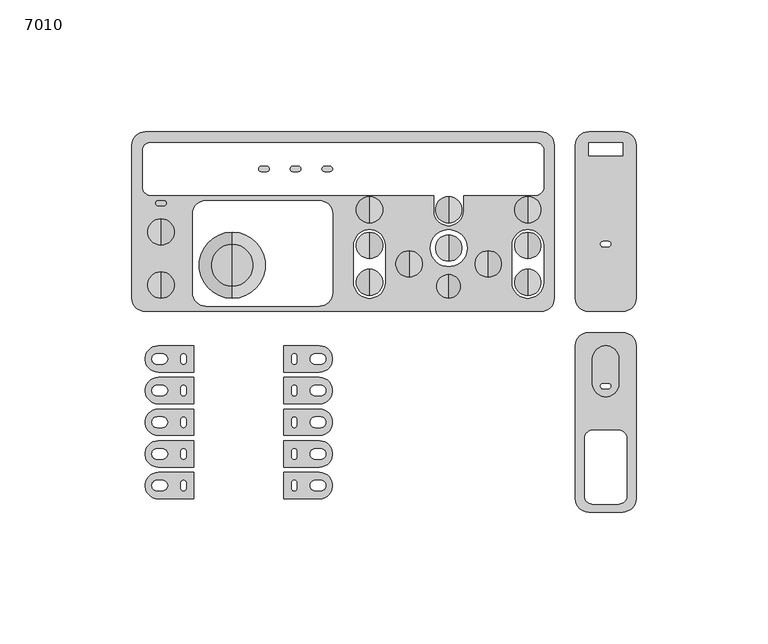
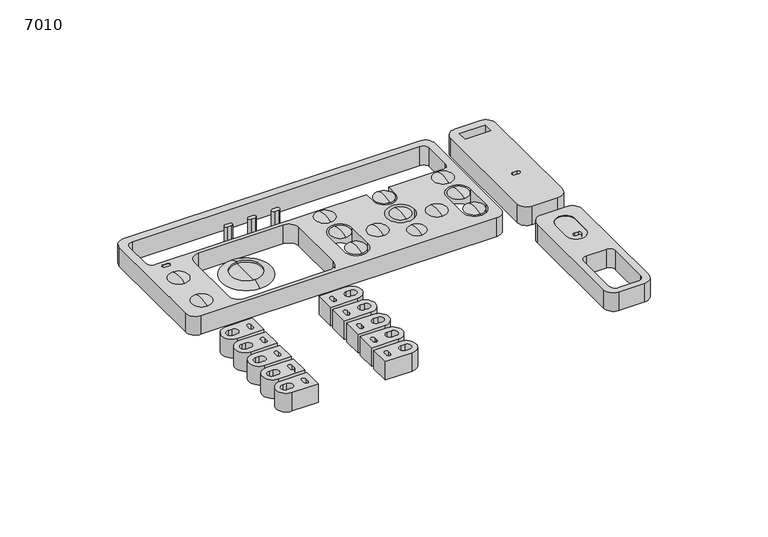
"""IFC4 building model written with IfcOpenShell, lengths in millimetres: switching device geometry, Панель управления SonarSRM : 7010."""

from ifc_helpers import new_model, si_unit, point, frame, frame_2d, origin, origin_with_axes, place, context, project, spatial, polyline, circle_curve, ellipse_curve, trimmed, segment, composite_curve, outline, extrude, source, transform, mapped, element, save
from ifc_brep_helpers import plane_surface, revolved_surface, advanced_brep


def switching_device_7010_a75dffa3(model_context):
    return source(origin(), model_context, "Body", "SolidModel", [
        advanced_brep(
        [(-84.5, 34.1156351, 11.0), (-84.5, 39.1156351, 10.0), (-84.5, 29.1156351, 10.0), (-84.5, 34.1156351, 10.0)],
        [
            (0, 1, circle_curve(frame((-84.5, 34.1156351, -2.0), z_axis=(-1.0, 0.0, 0.0), x_axis=(0.0, 1.0, 0.0)), 13.0)),
            (1, 2, circle_curve(frame((-84.5, 34.1156351, 10.0), z_axis=(0.0, 0.0, 1.0), x_axis=(0.0, 1.0, 0.0)), 5.0)),
            (2, 0, circle_curve(frame((-84.5, 34.1156351, -2.0), z_axis=(-1.0, 0.0, 0.0), x_axis=(0.0, -1.0, 0.0)), 13.0)),
            (2, 1, circle_curve(frame((-84.5, 34.1156351, 10.0), z_axis=(0.0, 0.0, 1.0), x_axis=(0.0, 1.0, 0.0)), 5.0)),
            (1, 3),
            (3, 2),
        ],
        [
            revolved_surface(trimmed(ellipse_curve(frame((-84.5, 34.1156351, -2.0), z_axis=(1.0, 0.0, 0.0), x_axis=(0.0, 1.0, 0.0)), 13.0, 13.0), [point((-84.5, 39.1156351, 10.0))], [point((-84.5, 34.1156351, 11.0))], True, "CARTESIAN"), (-84.5, 34.1156351, 10.5), (0.0, 0.0, 1.0)),
            plane_surface(frame((-84.5, 34.1156351, 10.0), z_axis=(0.0, 0.0, -1.0), x_axis=(0.0, 1.0, 0.0))),
        ],
        [
            (0, [[1, 2, 3]]),
            (0, [[-3, 4, -1]]),
            (1, [[-2, 5, 6]]),
            (1, [[-4, -6, -5]]),
        ],
    ),
        advanced_brep(
        [(-84.5, 14.0, 11.0), (-84.5, 19.0, 10.0), (-84.5, 9.0, 10.0), (-84.5, 14.0, 10.0)],
        [
            (0, 1, circle_curve(frame((-84.5, 14.0, -2.0), z_axis=(-1.0, 0.0, 0.0), x_axis=(0.0, 1.0, 0.0)), 13.0)),
            (1, 2, circle_curve(frame((-84.5, 14.0, 10.0), z_axis=(0.0, 0.0, 1.0), x_axis=(0.0, 1.0, 0.0)), 5.0)),
            (2, 0, circle_curve(frame((-84.5, 14.0, -2.0), z_axis=(-1.0, 0.0, 0.0), x_axis=(0.0, -1.0, 0.0)), 13.0)),
            (2, 1, circle_curve(frame((-84.5, 14.0, 10.0), z_axis=(0.0, 0.0, 1.0), x_axis=(0.0, 1.0, 0.0)), 5.0)),
            (1, 3),
            (3, 2),
        ],
        [
            revolved_surface(trimmed(ellipse_curve(frame((-84.5, 14.0, -2.0), z_axis=(1.0, 0.0, 0.0), x_axis=(0.0, 1.0, 0.0)), 13.0, 13.0), [point((-84.5, 19.0, 10.0))], [point((-84.5, 14.0, 11.0))], True, "CARTESIAN"), (-84.5, 14.0, 10.5), (0.0, 0.0, 1.0)),
            plane_surface(frame((-84.5, 14.0, 10.0), z_axis=(0.0, 0.0, -1.0), x_axis=(0.0, 1.0, 0.0))),
        ],
        [
            (0, [[1, 2, 3]]),
            (0, [[-3, 4, -1]]),
            (1, [[-2, 5, 6]]),
            (1, [[-4, -6, -5]]),
        ],
    ),
        advanced_brep(
        [(24.5, 18.0, 10.0), (24.5, 9.0, 10.0), (24.5, 13.5, 10.0), (24.5, 13.5, 11.0)],
        [
            (0, 1, circle_curve(frame((24.5, 13.5, 10.0), z_axis=(0.0, 0.0, -1.0), x_axis=(0.0, -1.0, 0.0)), 4.5)),
            (1, 2),
            (2, 0),
            (1, 0, circle_curve(frame((24.5, 13.5, 10.0), z_axis=(0.0, 0.0, -1.0), x_axis=(0.0, -1.0, 0.0)), 4.5)),
            (3, 1, circle_curve(frame((24.5, 13.5, 0.375), z_axis=(1.0, 0.0, 0.0), x_axis=(0.0, -1.0, 0.0)), 10.625)),
            (0, 3, circle_curve(frame((24.5, 13.5, 0.375), z_axis=(1.0, 0.0, 0.0), x_axis=(0.0, 1.0, 0.0)), 10.625)),
        ],
        [
            plane_surface(frame((24.5, 13.5, 10.0), z_axis=(0.0, 0.0, -1.0), x_axis=(0.0, -1.0, 0.0))),
            revolved_surface(trimmed(ellipse_curve(frame((24.5, 13.5, 0.375), z_axis=(-1.0, 0.0, 0.0), x_axis=(0.0, -1.0, 0.0)), 10.625, 10.625), [point((24.5, 9.0, 10.0))], [point((24.5, 13.5, 11.0))], True, "CARTESIAN"), (24.5, 13.5, 10.1443303), (0.0, 0.0, 1.0)),
        ],
        [
            (0, [[1, 2, 3]]),
            (0, [[4, -3, -2]]),
            (1, [[5, -1, 6]]),
            (1, [[-6, -4, -5]]),
        ],
    ),
        advanced_brep(
        [(39.5, 22.0, 11.0), (39.5, 17.0, 10.0), (39.5, 27.0, 10.0), (39.5, 22.0, 10.0)],
        [
            (0, 1, circle_curve(frame((39.5, 22.0, -2.0), z_axis=(1.0, 0.0, 0.0), x_axis=(0.0, -1.0, 0.0)), 13.0)),
            (1, 2, circle_curve(frame((39.5, 22.0, 10.0), z_axis=(0.0, 0.0, 1.0), x_axis=(0.0, -1.0, 0.0)), 5.0)),
            (2, 0, circle_curve(frame((39.5, 22.0, -2.0), z_axis=(1.0, 0.0, 0.0), x_axis=(0.0, 1.0, 0.0)), 13.0)),
            (2, 1, circle_curve(frame((39.5, 22.0, 10.0), z_axis=(0.0, 0.0, 1.0), x_axis=(0.0, -1.0, 0.0)), 5.0)),
            (1, 3),
            (3, 2),
        ],
        [
            revolved_surface(trimmed(ellipse_curve(frame((39.5, 22.0, -2.0), z_axis=(-1.0, 0.0, 0.0), x_axis=(0.0, -1.0, 0.0)), 13.0, 13.0), [point((39.5, 17.0, 10.0))], [point((39.5, 22.0, 11.0))], True, "CARTESIAN"), (39.5, 22.0, 10.5), (0.0, 0.0, 1.0)),
            plane_surface(frame((39.5, 22.0, 10.0), z_axis=(0.0, 0.0, -1.0), x_axis=(0.0, -1.0, 0.0))),
        ],
        [
            (0, [[1, 2, 3]]),
            (0, [[-3, 4, -1]]),
            (1, [[-2, 5, 6]]),
            (1, [[-4, -6, -5]]),
        ],
    ),
        advanced_brep(
        [(9.5, 27.0, 10.0), (9.5, 17.0, 10.0), (9.5, 22.0, 11.0), (9.5, 22.0, 10.0)],
        [
            (0, 1, circle_curve(frame((9.5, 22.0, 10.0), z_axis=(0.0, 0.0, 1.0), x_axis=(0.0, -1.0, 0.0)), 5.0)),
            (1, 2, circle_curve(frame((9.5, 22.0, -2.0), z_axis=(-1.0, 0.0, 0.0), x_axis=(0.0, -1.0, 0.0)), 13.0)),
            (2, 0, circle_curve(frame((9.5, 22.0, -2.0), z_axis=(-1.0, 0.0, 0.0), x_axis=(0.0, 1.0, 0.0)), 13.0)),
            (1, 0, circle_curve(frame((9.5, 22.0, 10.0), z_axis=(0.0, 0.0, 1.0), x_axis=(0.0, -1.0, 0.0)), 5.0)),
            (3, 1),
            (0, 3),
        ],
        [
            revolved_surface(trimmed(ellipse_curve(frame((9.5, 22.0, -2.0), z_axis=(1.0, 0.0, 0.0), x_axis=(0.0, -1.0, 0.0)), 13.0, 13.0), [point((9.5, 22.0, 11.0))], [point((9.5, 17.0, 10.0))], True, "CARTESIAN"), (9.5, 22.0, 10.5), (0.0, 0.0, -1.0)),
            plane_surface(frame((9.5, 22.0, 10.0), z_axis=(0.0, 0.0, -1.0), x_axis=(0.0, -1.0, 0.0))),
        ],
        [
            (0, [[1, 2, 3]]),
            (0, [[4, -3, -2]]),
            (1, [[5, -1, 6]]),
            (1, [[-6, -4, -5]]),
        ],
    ),
        advanced_brep(
        [(54.5, 47.5, 10.0), (54.5, 37.5, 10.0), (54.5, 42.5, 11.0), (54.5, 42.5, 10.0)],
        [
            (0, 1, circle_curve(frame((54.5, 42.5, 10.0), z_axis=(0.0, 0.0, 1.0), x_axis=(0.0, -1.0, 0.0)), 5.0)),
            (1, 2, circle_curve(frame((54.5, 42.5, -2.0), z_axis=(-1.0, 0.0, 0.0), x_axis=(0.0, -1.0, 0.0)), 13.0)),
            (2, 0, circle_curve(frame((54.5, 42.5, -2.0), z_axis=(-1.0, 0.0, 0.0), x_axis=(0.0, 1.0, 0.0)), 13.0)),
            (1, 0, circle_curve(frame((54.5, 42.5, 10.0), z_axis=(0.0, 0.0, 1.0), x_axis=(0.0, -1.0, 0.0)), 5.0)),
            (3, 1),
            (0, 3),
        ],
        [
            revolved_surface(trimmed(ellipse_curve(frame((54.5, 42.5, -2.0), z_axis=(1.0, 0.0, 0.0), x_axis=(0.0, -1.0, 0.0)), 13.0, 13.0), [point((54.5, 42.5, 11.0))], [point((54.5, 37.5, 10.0))], True, "CARTESIAN"), (54.5, 42.5, 10.5), (0.0, 0.0, -1.0)),
            plane_surface(frame((54.5, 42.5, 10.0), z_axis=(0.0, 0.0, -1.0), x_axis=(0.0, -1.0, 0.0))),
        ],
        [
            (0, [[1, 2, 3]]),
            (0, [[4, -3, -2]]),
            (1, [[5, -1, 6]]),
            (1, [[-6, -4, -5]]),
        ],
    ),
        advanced_brep(
        [(-5.5, 47.5, 10.0), (-5.5, 37.5, 10.0), (-5.5, 42.5, 11.0), (-5.5, 42.5, 10.0)],
        [
            (0, 1, circle_curve(frame((-5.5, 42.5, 10.0), z_axis=(0.0, 0.0, 1.0), x_axis=(0.0, -1.0, 0.0)), 5.0)),
            (1, 2, circle_curve(frame((-5.5, 42.5, -2.0), z_axis=(-1.0, 0.0, 0.0), x_axis=(0.0, -1.0, 0.0)), 13.0)),
            (2, 0, circle_curve(frame((-5.5, 42.5, -2.0), z_axis=(-1.0, 0.0, 0.0), x_axis=(0.0, 1.0, 0.0)), 13.0)),
            (1, 0, circle_curve(frame((-5.5, 42.5, 10.0), z_axis=(0.0, 0.0, 1.0), x_axis=(0.0, -1.0, 0.0)), 5.0)),
            (3, 1),
            (0, 3),
        ],
        [
            revolved_surface(trimmed(ellipse_curve(frame((-5.5, 42.5, -2.0), z_axis=(1.0, 0.0, 0.0), x_axis=(0.0, -1.0, 0.0)), 13.0, 13.0), [point((-5.5, 42.5, 11.0))], [point((-5.5, 37.5, 10.0))], True, "CARTESIAN"), (-5.5, 42.5, 10.5), (0.0, 0.0, -1.0)),
            plane_surface(frame((-5.5, 42.5, 10.0), z_axis=(0.0, 0.0, -1.0), x_axis=(0.0, -1.0, 0.0))),
        ],
        [
            (0, [[1, 2, 3]]),
            (0, [[4, -3, -2]]),
            (1, [[5, -1, 6]]),
            (1, [[-6, -4, -5]]),
        ],
    ),
        advanced_brep(
        [(24.5, 47.5, 10.0), (24.5, 37.5, 10.0), (24.5, 42.5, 11.0), (24.5, 42.5, 10.0)],
        [
            (0, 1, circle_curve(frame((24.5, 42.5, 10.0), z_axis=(0.0, 0.0, 1.0), x_axis=(0.0, -1.0, 0.0)), 5.0)),
            (1, 2, circle_curve(frame((24.5, 42.5, -2.0), z_axis=(-1.0, 0.0, 0.0), x_axis=(0.0, -1.0, 0.0)), 13.0)),
            (2, 0, circle_curve(frame((24.5, 42.5, -2.0), z_axis=(-1.0, 0.0, 0.0), x_axis=(0.0, 1.0, 0.0)), 13.0)),
            (1, 0, circle_curve(frame((24.5, 42.5, 10.0), z_axis=(0.0, 0.0, 1.0), x_axis=(0.0, -1.0, 0.0)), 5.0)),
            (3, 1),
            (0, 3),
        ],
        [
            revolved_surface(trimmed(ellipse_curve(frame((24.5, 42.5, -2.0), z_axis=(1.0, 0.0, 0.0), x_axis=(0.0, -1.0, 0.0)), 13.0, 13.0), [point((24.5, 42.5, 11.0))], [point((24.5, 37.5, 10.0))], True, "CARTESIAN"), (24.5, 42.5, 10.5), (0.0, 0.0, -1.0)),
            plane_surface(frame((24.5, 42.5, 10.0), z_axis=(0.0, 0.0, -1.0), x_axis=(0.0, -1.0, 0.0))),
        ],
        [
            (0, [[1, 2, 3]]),
            (0, [[4, -3, -2]]),
            (1, [[5, -1, 6]]),
            (1, [[-6, -4, -5]]),
        ],
    ),
        advanced_brep(
        [(24.5, 28.0, 11.0), (24.5, 33.0, 10.0), (24.5, 23.0, 10.0), (24.5, 28.0, 10.0)],
        [
            (0, 1, circle_curve(frame((24.5, 28.0, -2.0), z_axis=(-1.0, 0.0, 0.0), x_axis=(0.0, 1.0, 0.0)), 13.0)),
            (1, 2, circle_curve(frame((24.5, 28.0, 10.0), z_axis=(0.0, 0.0, 1.0), x_axis=(0.0, 1.0, 0.0)), 5.0)),
            (2, 0, circle_curve(frame((24.5, 28.0, -2.0), z_axis=(-1.0, 0.0, 0.0), x_axis=(0.0, -1.0, 0.0)), 13.0)),
            (2, 1, circle_curve(frame((24.5, 28.0, 10.0), z_axis=(0.0, 0.0, 1.0), x_axis=(0.0, 1.0, 0.0)), 5.0)),
            (1, 3),
            (3, 2),
        ],
        [
            revolved_surface(trimmed(ellipse_curve(frame((24.5, 28.0, -2.0), z_axis=(1.0, 0.0, 0.0), x_axis=(0.0, 1.0, 0.0)), 13.0, 13.0), [point((24.5, 33.0, 10.0))], [point((24.5, 28.0, 11.0))], True, "CARTESIAN"), (24.5, 28.0, 10.5), (0.0, 0.0, 1.0)),
            plane_surface(frame((24.5, 28.0, 10.0), z_axis=(0.0, 0.0, -1.0), x_axis=(0.0, 1.0, 0.0))),
        ],
        [
            (0, [[1, 2, 3]]),
            (0, [[-3, 4, -1]]),
            (1, [[-2, 5, 6]]),
            (1, [[-4, -6, -5]]),
        ],
    ),
        advanced_brep(
        [(-5.5, 29.0, 11.0), (-5.5, 34.0, 10.0), (-5.5, 24.0, 10.0), (-5.5, 29.0, 10.0)],
        [
            (0, 1, circle_curve(frame((-5.5, 29.0, -2.0), z_axis=(-1.0, 0.0, 0.0), x_axis=(0.0, 1.0, 0.0)), 13.0)),
            (1, 2, circle_curve(frame((-5.5, 29.0, 10.0), z_axis=(0.0, 0.0, 1.0), x_axis=(0.0, 1.0, 0.0)), 5.0)),
            (2, 0, circle_curve(frame((-5.5, 29.0, -2.0), z_axis=(-1.0, 0.0, 0.0), x_axis=(0.0, -1.0, 0.0)), 13.0)),
            (2, 1, circle_curve(frame((-5.5, 29.0, 10.0), z_axis=(0.0, 0.0, 1.0), x_axis=(0.0, 1.0, 0.0)), 5.0)),
            (1, 3),
            (3, 2),
        ],
        [
            revolved_surface(trimmed(ellipse_curve(frame((-5.5, 29.0, -2.0), z_axis=(1.0, 0.0, 0.0), x_axis=(0.0, 1.0, 0.0)), 13.0, 13.0), [point((-5.5, 34.0, 10.0))], [point((-5.5, 29.0, 11.0))], True, "CARTESIAN"), (-5.5, 29.0, 10.5), (0.0, 0.0, 1.0)),
            plane_surface(frame((-5.5, 29.0, 10.0), z_axis=(0.0, 0.0, -1.0), x_axis=(0.0, 1.0, 0.0))),
        ],
        [
            (0, [[1, 2, 3]]),
            (0, [[-3, 4, -1]]),
            (1, [[-2, 5, 6]]),
            (1, [[-4, -6, -5]]),
        ],
    ),
        advanced_brep(
        [(-5.5, 20.0, 10.0), (-5.5, 10.0, 10.0), (-5.5, 15.0, 11.0), (-5.5, 15.0, 10.0)],
        [
            (0, 1, circle_curve(frame((-5.5, 15.0, 10.0), z_axis=(0.0, 0.0, 1.0), x_axis=(0.0, -1.0, 0.0)), 5.0)),
            (1, 2, circle_curve(frame((-5.5, 15.0, -2.0), z_axis=(-1.0, 0.0, 0.0), x_axis=(0.0, -1.0, 0.0)), 13.0)),
            (2, 0, circle_curve(frame((-5.5, 15.0, -2.0), z_axis=(-1.0, 0.0, 0.0), x_axis=(0.0, 1.0, 0.0)), 13.0)),
            (1, 0, circle_curve(frame((-5.5, 15.0, 10.0), z_axis=(0.0, 0.0, 1.0), x_axis=(0.0, -1.0, 0.0)), 5.0)),
            (3, 1),
            (0, 3),
        ],
        [
            revolved_surface(trimmed(ellipse_curve(frame((-5.5, 15.0, -2.0), z_axis=(1.0, 0.0, 0.0), x_axis=(0.0, -1.0, 0.0)), 13.0, 13.0), [point((-5.5, 15.0, 11.0))], [point((-5.5, 10.0, 10.0))], True, "CARTESIAN"), (-5.5, 15.0, 10.5), (0.0, 0.0, -1.0)),
            plane_surface(frame((-5.5, 15.0, 10.0), z_axis=(0.0, 0.0, -1.0), x_axis=(0.0, -1.0, 0.0))),
        ],
        [
            (0, [[1, 2, 3]]),
            (0, [[4, -3, -2]]),
            (1, [[5, -1, 6]]),
            (1, [[-6, -4, -5]]),
        ],
    ),
        advanced_brep(
        [(54.5, 29.0, 11.0), (54.5, 34.0, 10.0), (54.5, 24.0, 10.0), (54.5, 29.0, 10.0)],
        [
            (0, 1, circle_curve(frame((54.5, 29.0, -2.0), z_axis=(-1.0, 0.0, 0.0), x_axis=(0.0, 1.0, 0.0)), 13.0)),
            (1, 2, circle_curve(frame((54.5, 29.0, 10.0), z_axis=(0.0, 0.0, 1.0), x_axis=(0.0, 1.0, 0.0)), 5.0)),
            (2, 0, circle_curve(frame((54.5, 29.0, -2.0), z_axis=(-1.0, 0.0, 0.0), x_axis=(0.0, -1.0, 0.0)), 13.0)),
            (2, 1, circle_curve(frame((54.5, 29.0, 10.0), z_axis=(0.0, 0.0, 1.0), x_axis=(0.0, 1.0, 0.0)), 5.0)),
            (1, 3),
            (3, 2),
        ],
        [
            revolved_surface(trimmed(ellipse_curve(frame((54.5, 29.0, -2.0), z_axis=(1.0, 0.0, 0.0), x_axis=(0.0, 1.0, 0.0)), 13.0, 13.0), [point((54.5, 34.0, 10.0))], [point((54.5, 29.0, 11.0))], True, "CARTESIAN"), (54.5, 29.0, 10.5), (0.0, 0.0, 1.0)),
            plane_surface(frame((54.5, 29.0, 10.0), z_axis=(0.0, 0.0, -1.0), x_axis=(0.0, 1.0, 0.0))),
        ],
        [
            (0, [[1, 2, 3]]),
            (0, [[-3, 4, -1]]),
            (1, [[-2, 5, 6]]),
            (1, [[-4, -6, -5]]),
        ],
    ),
        advanced_brep(
        [(54.5, 20.0, 10.0), (54.5, 10.0, 10.0), (54.5, 15.0, 11.0), (54.5, 15.0, 10.0)],
        [
            (0, 1, circle_curve(frame((54.5, 15.0, 10.0), z_axis=(0.0, 0.0, 1.0), x_axis=(0.0, -1.0, 0.0)), 5.0)),
            (1, 2, circle_curve(frame((54.5, 15.0, -2.0), z_axis=(-1.0, 0.0, 0.0), x_axis=(0.0, -1.0, 0.0)), 13.0)),
            (2, 0, circle_curve(frame((54.5, 15.0, -2.0), z_axis=(-1.0, 0.0, 0.0), x_axis=(0.0, 1.0, 0.0)), 13.0)),
            (1, 0, circle_curve(frame((54.5, 15.0, 10.0), z_axis=(0.0, 0.0, 1.0), x_axis=(0.0, -1.0, 0.0)), 5.0)),
            (3, 1),
            (0, 3),
        ],
        [
            revolved_surface(trimmed(ellipse_curve(frame((54.5, 15.0, -2.0), z_axis=(1.0, 0.0, 0.0), x_axis=(0.0, -1.0, 0.0)), 13.0, 13.0), [point((54.5, 15.0, 11.0))], [point((54.5, 10.0, 10.0))], True, "CARTESIAN"), (54.5, 15.0, 10.5), (0.0, 0.0, -1.0)),
            plane_surface(frame((54.5, 15.0, 10.0), z_axis=(0.0, 0.0, -1.0), x_axis=(0.0, -1.0, 0.0))),
        ],
        [
            (0, [[1, 2, 3]]),
            (0, [[4, -3, -2]]),
            (1, [[5, -1, 6]]),
            (1, [[-6, -4, -5]]),
        ],
    ),
        advanced_brep(
        [(-57.5, 21.5, 10.0), (-57.5, 34.0, 10.0), (-57.5, 9.0, 10.0), (-57.5, 29.5, 12.0), (-57.5, 13.5, 12.0), (-57.5, 29.5, 11.0), (-57.5, 13.5, 11.0), (-57.5, 21.5, 11.0)],
        [
            (0, 1),
            (1, 2, circle_curve(frame((-57.5, 21.5, 10.0), z_axis=(0.0, 0.0, -1.0), x_axis=(0.0, 1.0, 0.0)), 12.5)),
            (2, 0),
            (2, 1, circle_curve(frame((-57.5, 21.5, 10.0), z_axis=(0.0, 0.0, -1.0), x_axis=(0.0, 1.0, 0.0)), 12.5)),
            (1, 3),
            (3, 4, circle_curve(frame((-57.5, 21.5, 12.0), z_axis=(0.0, 0.0, -1.0), x_axis=(0.0, 1.0, 0.0)), 8.0)),
            (4, 2),
            (4, 3, circle_curve(frame((-57.5, 21.5, 12.0), z_axis=(0.0, 0.0, -1.0), x_axis=(0.0, 1.0, 0.0)), 8.0)),
            (3, 5),
            (5, 6, circle_curve(frame((-57.5, 21.5, 11.0), z_axis=(0.0, 0.0, -1.0), x_axis=(0.0, 1.0, 0.0)), 8.0)),
            (6, 4),
            (6, 5, circle_curve(frame((-57.5, 21.5, 11.0), z_axis=(0.0, 0.0, -1.0), x_axis=(0.0, 1.0, 0.0)), 8.0)),
            (5, 7),
            (7, 6),
        ],
        [
            plane_surface(frame((-57.5, 21.5, 10.0), z_axis=(0.0, 0.0, -1.0), x_axis=(0.0, 1.0, 0.0))),
            revolved_surface(polyline([(-57.5, 29.5, 12.0), (-57.5, 34.0, 10.0)]), (-57.5, 21.5, 10.0), (0.0, 0.0, -1.0)),
            revolved_surface(polyline([(-57.5, 29.5, 11.0), (-57.5, 29.5, 12.0)]), (-57.5, 21.5, 10.0), (0.0, 0.0, -1.0)),
            plane_surface(frame((-57.5, 21.5, 11.0), z_axis=(0.0, 0.0, 1.0), x_axis=(0.0, 1.0, 0.0))),
        ],
        [
            (0, [[1, 2, 3]]),
            (0, [[-3, 4, -1]]),
            (1, [[-2, 5, 6, 7]]),
            (1, [[-4, -7, 8, -5]]),
            (2, [[-6, 9, 10, 11]]),
            (2, [[-8, -11, 12, -9]]),
            (3, [[-10, 13, 14]]),
            (3, [[-12, -14, -13]]),
        ],
    ),
        extrude(outline(composite_curve([segment(polyline([(64.5, 67.0), (64.5, 9.0)]), True, "CONTINUOUS"), segment(trimmed(circle_curve(frame_2d((59.5, 9.0)), 5.0), [point((64.5, 9.0))], [point((59.5, 4.0))], False, "CARTESIAN"), True, "CONTINUOUS"), segment(polyline([(59.5, 4.0), (-90.5, 4.0)]), True, "CONTINUOUS"), segment(trimmed(circle_curve(frame_2d((-90.5, 9.0)), 5.0), [point((-90.5, 4.0))], [point((-95.5, 9.0))], False, "CARTESIAN"), True, "CONTINUOUS"), segment(polyline([(-95.5, 9.0), (-95.5, 67.0)]), True, "CONTINUOUS"), segment(trimmed(circle_curve(frame_2d((-90.5, 67.0)), 5.0), [point((-95.5, 67.0))], [point((-90.5, 72.0))], False, "CARTESIAN"), True, "CONTINUOUS"), segment(polyline([(-90.5, 72.0), (59.5, 72.0)]), True, "CONTINUOUS"), segment(trimmed(circle_curve(frame_2d((59.5, 67.0)), 5.0), [point((59.5, 72.0))], [point((64.5, 67.0))], False, "CARTESIAN"), True, "CONTINUOUS")], self_intersect=False), holes=[composite_curve([segment(trimmed(circle_curve(frame_2d((-88.5, 65.0)), 3.0), [point((-88.5, 68.0))], [point((-91.5, 65.0))], True, "CARTESIAN"), True, "CONTINUOUS"), segment(polyline([(-91.5, 65.0), (-91.5, 51.0)]), True, "CONTINUOUS"), segment(trimmed(circle_curve(frame_2d((-88.5, 51.0)), 3.0), [point((-91.5, 51.0))], [point((-88.5, 48.0))], True, "CARTESIAN"), True, "CONTINUOUS"), segment(polyline([(-88.5, 48.0), (19.0, 48.0), (19.0, 42.0)]), True, "CONTINUOUS"), segment(trimmed(circle_curve(frame_2d((24.5, 42.0)), 5.5), [point((19.0, 42.0))], [point((30.0, 42.0))], True, "CARTESIAN"), True, "CONTINUOUS"), segment(polyline([(30.0, 42.0), (30.0, 48.0), (57.5, 48.0)]), True, "CONTINUOUS"), segment(trimmed(circle_curve(frame_2d((57.5, 51.0)), 3.0), [point((57.5, 48.0))], [point((60.5, 51.0))], True, "CARTESIAN"), True, "CONTINUOUS"), segment(polyline([(60.5, 51.0), (60.5, 65.0)]), True, "CONTINUOUS"), segment(trimmed(circle_curve(frame_2d((57.5, 65.0)), 3.0), [point((60.5, 65.0))], [point((57.5, 68.0))], True, "CARTESIAN"), True, "CONTINUOUS"), segment(polyline([(57.5, 68.0), (-88.5, 68.0)]), True, "CONTINUOUS")], self_intersect=False), composite_curve([segment(polyline([(-72.5, 41.0), (-72.5, 11.0)]), True, "CONTINUOUS"), segment(trimmed(circle_curve(frame_2d((-67.5, 11.0)), 5.0), [point((-72.5, 11.0))], [point((-67.5, 6.0))], True, "CARTESIAN"), True, "CONTINUOUS"), segment(polyline([(-67.5, 6.0), (-24.5, 6.0)]), True, "CONTINUOUS"), segment(trimmed(circle_curve(frame_2d((-24.5, 11.0)), 5.0), [point((-24.5, 6.0))], [point((-19.5, 11.0))], True, "CARTESIAN"), True, "CONTINUOUS"), segment(polyline([(-19.5, 11.0), (-19.5, 41.0)]), True, "CONTINUOUS"), segment(trimmed(circle_curve(frame_2d((-24.5, 41.0)), 5.0), [point((-19.5, 41.0))], [point((-24.5, 46.0))], True, "CARTESIAN"), True, "CONTINUOUS"), segment(polyline([(-24.5, 46.0), (-67.5, 46.0)]), True, "CONTINUOUS"), segment(trimmed(circle_curve(frame_2d((-67.5, 41.0)), 5.0), [point((-67.5, 46.0))], [point((-72.5, 41.0))], True, "CARTESIAN"), True, "CONTINUOUS")], self_intersect=False), composite_curve([segment(trimmed(circle_curve(frame_2d((-5.5, 29.0)), 6.0), [point((0.5, 29.0))], [point((-11.5, 29.0))], True, "CARTESIAN"), True, "CONTINUOUS"), segment(polyline([(-11.5, 29.0), (-11.5, 15.0)]), True, "CONTINUOUS"), segment(trimmed(circle_curve(frame_2d((-5.5, 15.0)), 6.0), [point((-11.5, 15.0))], [point((0.5, 15.0))], True, "CARTESIAN"), True, "CONTINUOUS"), segment(polyline([(0.5, 15.0), (0.5, 29.0)]), True, "CONTINUOUS")], self_intersect=False), composite_curve([segment(trimmed(circle_curve(frame_2d((54.5, 29.0)), 6.0), [point((60.5, 29.0))], [point((48.5, 29.0))], True, "CARTESIAN"), True, "CONTINUOUS"), segment(polyline([(48.5, 29.0), (48.5, 15.0)]), True, "CONTINUOUS"), segment(trimmed(circle_curve(frame_2d((54.5, 15.0)), 6.0), [point((48.5, 15.0))], [point((60.5, 15.0))], True, "CARTESIAN"), True, "CONTINUOUS"), segment(polyline([(60.5, 15.0), (60.5, 29.0)]), True, "CONTINUOUS")], self_intersect=False), composite_curve([segment(trimmed(circle_curve(frame_2d((24.5, 28.0)), 7.0), [point((31.5, 28.0))], [point((17.5, 28.0))], True, "CARTESIAN"), True, "CONTINUOUS"), segment(trimmed(circle_curve(frame_2d((24.5, 28.0)), 7.0), [point((17.5, 28.0))], [point((31.5, 28.0))], True, "CARTESIAN"), True, "CONTINUOUS")], self_intersect=False), composite_curve([segment(trimmed(circle_curve(frame_2d((-85.5, 45.0)), 1.0), [point((-85.5, 46.0))], [point((-85.5, 44.0))], True, "CARTESIAN"), True, "CONTINUOUS"), segment(polyline([(-85.5, 44.0), (-83.5, 44.0)]), True, "CONTINUOUS"), segment(trimmed(circle_curve(frame_2d((-83.5, 45.0)), 1.0), [point((-83.5, 44.0))], [point((-83.5, 46.0))], True, "CARTESIAN"), True, "CONTINUOUS"), segment(polyline([(-83.5, 46.0), (-85.5, 46.0)]), True, "CONTINUOUS")], self_intersect=False)]), origin_with_axes(), (0.0, 0.0, 1.0), 10.0),
        extrude(outline(composite_curve([segment(polyline([(72.5, 9.0), (72.5, 67.0)]), True, "CONTINUOUS"), segment(trimmed(circle_curve(frame_2d((77.5, 67.0)), 5.0), [point((72.5, 67.0))], [point((77.5, 72.0))], False, "CARTESIAN"), True, "CONTINUOUS"), segment(polyline([(77.5, 72.0), (90.5, 72.0)]), True, "CONTINUOUS"), segment(trimmed(circle_curve(frame_2d((90.5, 67.0)), 5.0), [point((90.5, 72.0))], [point((95.5, 67.0))], False, "CARTESIAN"), True, "CONTINUOUS"), segment(polyline([(95.5, 67.0), (95.5, 9.0)]), True, "CONTINUOUS"), segment(trimmed(circle_curve(frame_2d((90.5, 9.0)), 5.0), [point((95.5, 9.0))], [point((90.5, 4.0))], False, "CARTESIAN"), True, "CONTINUOUS"), segment(polyline([(90.5, 4.0), (77.5, 4.0)]), True, "CONTINUOUS"), segment(trimmed(circle_curve(frame_2d((77.5, 9.0)), 5.0), [point((77.5, 4.0))], [point((72.5, 9.0))], False, "CARTESIAN"), True, "CONTINUOUS")], self_intersect=False), holes=[polyline([(90.5, 68.0), (77.5, 68.0), (77.5, 63.0), (90.5, 63.0), (90.5, 68.0)]), composite_curve([segment(trimmed(circle_curve(frame_2d((83.0, 29.5)), 1.0), [point((83.0, 30.5))], [point((83.0, 28.5))], True, "CARTESIAN"), True, "CONTINUOUS"), segment(polyline([(83.0, 28.5), (85.0, 28.5)]), True, "CONTINUOUS"), segment(trimmed(circle_curve(frame_2d((85.0, 29.5)), 1.0), [point((85.0, 28.5))], [point((85.0, 30.5))], True, "CARTESIAN"), True, "CONTINUOUS"), segment(polyline([(85.0, 30.5), (83.0, 30.5)]), True, "CONTINUOUS")], self_intersect=False)]), origin_with_axes(), (0.0, 0.0, 1.0), 10.0),
        extrude(outline(composite_curve([segment(polyline([(77.5, -4.0), (90.5, -4.0)]), True, "CONTINUOUS"), segment(trimmed(circle_curve(frame_2d((90.5, -9.0)), 5.0), [point((90.5, -4.0))], [point((95.5, -9.0))], False, "CARTESIAN"), True, "CONTINUOUS"), segment(polyline([(95.5, -9.0), (95.5, -67.0)]), True, "CONTINUOUS"), segment(trimmed(circle_curve(frame_2d((90.5, -67.0)), 5.0), [point((95.5, -67.0))], [point((90.5, -72.0))], False, "CARTESIAN"), True, "CONTINUOUS"), segment(polyline([(90.5, -72.0), (77.5, -72.0)]), True, "CONTINUOUS"), segment(trimmed(circle_curve(frame_2d((77.5, -67.0)), 5.0), [point((77.5, -72.0))], [point((72.5, -67.0))], False, "CARTESIAN"), True, "CONTINUOUS"), segment(polyline([(72.5, -67.0), (72.5, -9.0)]), True, "CONTINUOUS"), segment(trimmed(circle_curve(frame_2d((77.5, -9.0)), 5.0), [point((72.5, -9.0))], [point((77.5, -4.0))], False, "CARTESIAN"), True, "CONTINUOUS")], self_intersect=False), holes=[composite_curve([segment(trimmed(circle_curve(frame_2d((79.0, -66.0)), 3.0), [point((76.0, -66.0))], [point((79.0, -69.0))], True, "CARTESIAN"), True, "CONTINUOUS"), segment(polyline([(79.0, -69.0), (89.0, -69.0)]), True, "CONTINUOUS"), segment(trimmed(circle_curve(frame_2d((89.0, -66.0)), 3.0), [point((89.0, -69.0))], [point((92.0, -66.0))], True, "CARTESIAN"), True, "CONTINUOUS"), segment(polyline([(92.0, -66.0), (92.0, -44.0)]), True, "CONTINUOUS"), segment(trimmed(circle_curve(frame_2d((89.0, -44.0)), 3.0), [point((92.0, -44.0))], [point((89.0, -41.0))], True, "CARTESIAN"), True, "CONTINUOUS"), segment(polyline([(89.0, -41.0), (79.0, -41.0)]), True, "CONTINUOUS"), segment(trimmed(circle_curve(frame_2d((79.0, -44.0)), 3.0), [point((79.0, -41.0))], [point((76.0, -44.0))], True, "CARTESIAN"), True, "CONTINUOUS"), segment(polyline([(76.0, -44.0), (76.0, -66.0)]), True, "CONTINUOUS")], self_intersect=False), composite_curve([segment(polyline([(79.0, -14.0), (79.0, -23.3230034)]), True, "CONTINUOUS"), segment(trimmed(circle_curve(frame_2d((84.0, -23.3230034)), 5.0), [point((79.0, -23.3230034))], [point((89.0, -23.3230034))], True, "CARTESIAN"), True, "CONTINUOUS"), segment(polyline([(89.0, -23.3230034), (89.0, -14.0)]), True, "CONTINUOUS"), segment(trimmed(circle_curve(frame_2d((84.0, -14.0)), 5.0), [point((89.0, -14.0))], [point((79.0, -14.0))], True, "CARTESIAN"), True, "CONTINUOUS")], self_intersect=False)]), origin_with_axes(), (0.0, 0.0, 1.0), 10.0),
        extrude(outline(composite_curve([segment(polyline([(-46.5, 59.0), (-44.5, 59.0)]), True, "CONTINUOUS"), segment(trimmed(circle_curve(frame_2d((-44.5, 58.0)), 1.0), [point((-44.5, 59.0))], [point((-44.5, 57.0))], False, "CARTESIAN"), True, "CONTINUOUS"), segment(polyline([(-44.5, 57.0), (-46.5, 57.0)]), True, "CONTINUOUS"), segment(trimmed(circle_curve(frame_2d((-46.5, 58.0)), 1.0), [point((-46.5, 57.0))], [point((-46.5, 59.0))], False, "CARTESIAN"), True, "CONTINUOUS")], self_intersect=False)), origin_with_axes(), (0.0, 0.0, 1.0), 10.0),
        extrude(outline(composite_curve([segment(polyline([(-34.5, 59.0), (-32.5, 59.0)]), True, "CONTINUOUS"), segment(trimmed(circle_curve(frame_2d((-32.5, 58.0)), 1.0), [point((-32.5, 59.0))], [point((-32.5, 57.0))], False, "CARTESIAN"), True, "CONTINUOUS"), segment(polyline([(-32.5, 57.0), (-34.5, 57.0)]), True, "CONTINUOUS"), segment(trimmed(circle_curve(frame_2d((-34.5, 58.0)), 1.0), [point((-34.5, 57.0))], [point((-34.5, 59.0))], False, "CARTESIAN"), True, "CONTINUOUS")], self_intersect=False)), origin_with_axes(), (0.0, 0.0, 1.0), 10.0),
        extrude(outline(composite_curve([segment(polyline([(-22.5, 59.0), (-20.5, 59.0)]), True, "CONTINUOUS"), segment(trimmed(circle_curve(frame_2d((-20.5, 58.0)), 1.0), [point((-20.5, 59.0))], [point((-20.5, 57.0))], False, "CARTESIAN"), True, "CONTINUOUS"), segment(polyline([(-20.5, 57.0), (-22.5, 57.0)]), True, "CONTINUOUS"), segment(trimmed(circle_curve(frame_2d((-22.5, 58.0)), 1.0), [point((-22.5, 57.0))], [point((-22.5, 59.0))], False, "CARTESIAN"), True, "CONTINUOUS")], self_intersect=False)), origin_with_axes(), (0.0, 0.0, 1.0), 10.0),
        extrude(outline(composite_curve([segment(polyline([(-85.5, 46.0), (-83.5, 46.0)]), True, "CONTINUOUS"), segment(trimmed(circle_curve(frame_2d((-83.5, 45.0)), 1.0), [point((-83.5, 46.0))], [point((-83.5, 44.0))], False, "CARTESIAN"), True, "CONTINUOUS"), segment(polyline([(-83.5, 44.0), (-85.5, 44.0)]), True, "CONTINUOUS"), segment(trimmed(circle_curve(frame_2d((-85.5, 45.0)), 1.0), [point((-85.5, 44.0))], [point((-85.5, 46.0))], False, "CARTESIAN"), True, "CONTINUOUS")], self_intersect=False)), origin_with_axes(), (0.0, 0.0, 1.0), 10.0),
        extrude(outline(composite_curve([segment(polyline([(89.0, -14.0), (89.0, -23.3230034)]), True, "CONTINUOUS"), segment(trimmed(circle_curve(frame_2d((84.0, -23.3230034)), 5.0), [point((89.0, -23.3230034))], [point((79.0, -23.3230034))], False, "CARTESIAN"), True, "CONTINUOUS"), segment(polyline([(79.0, -23.3230034), (79.0, -14.0)]), True, "CONTINUOUS"), segment(trimmed(circle_curve(frame_2d((84.0, -14.0)), 5.0), [point((79.0, -14.0))], [point((89.0, -14.0))], False, "CARTESIAN"), True, "CONTINUOUS")], self_intersect=False), holes=[composite_curve([segment(trimmed(circle_curve(frame_2d((85.0, -24.3230034)), 1.0), [point((85.0, -25.3230034))], [point((85.0, -23.3230034))], True, "CARTESIAN"), True, "CONTINUOUS"), segment(polyline([(85.0, -23.3230034), (83.0, -23.3230034)]), True, "CONTINUOUS"), segment(trimmed(circle_curve(frame_2d((83.0, -24.3230034)), 1.0), [point((83.0, -23.3230034))], [point((83.0, -25.3230034))], True, "CARTESIAN"), True, "CONTINUOUS"), segment(polyline([(83.0, -25.3230034), (85.0, -25.3230034)]), True, "CONTINUOUS")], self_intersect=False)]), origin_with_axes(), (0.0, 0.0, 1.0), 10.0),
        extrude(outline(composite_curve([segment(polyline([(-72.0, -19.0), (-85.5, -19.0)]), True, "CONTINUOUS"), segment(trimmed(circle_curve(frame_2d((-85.5, -14.0)), 5.0), [point((-85.5, -19.0))], [point((-85.5, -9.0))], False, "CARTESIAN"), True, "CONTINUOUS"), segment(polyline([(-85.5, -9.0), (-72.0, -9.0), (-72.0, -19.0)]), True, "CONTINUOUS")], self_intersect=False), holes=[composite_curve([segment(trimmed(circle_curve(frame_2d((-76.0, -15.0)), 1.0), [point((-77.0, -15.0))], [point((-75.0, -15.0))], True, "CARTESIAN"), True, "CONTINUOUS"), segment(polyline([(-75.0, -15.0), (-75.0, -13.0)]), True, "CONTINUOUS"), segment(trimmed(circle_curve(frame_2d((-76.0, -13.0)), 1.0), [point((-75.0, -13.0))], [point((-77.0, -13.0))], True, "CARTESIAN"), True, "CONTINUOUS"), segment(polyline([(-77.0, -13.0), (-77.0, -15.0)]), True, "CONTINUOUS")], self_intersect=False), composite_curve([segment(polyline([(-84.0, -12.0), (-86.0, -12.0)]), True, "CONTINUOUS"), segment(trimmed(circle_curve(frame_2d((-86.0, -14.0)), 2.0), [point((-86.0, -12.0))], [point((-86.0, -16.0))], True, "CARTESIAN"), True, "CONTINUOUS"), segment(polyline([(-86.0, -16.0), (-84.0, -16.0)]), True, "CONTINUOUS"), segment(trimmed(circle_curve(frame_2d((-84.0, -14.0)), 2.0), [point((-84.0, -16.0))], [point((-84.0, -12.0))], True, "CARTESIAN"), True, "CONTINUOUS")], self_intersect=False)]), origin_with_axes(), (0.0, 0.0, 1.0), 10.0),
        extrude(outline(composite_curve([segment(polyline([(-72.0, -31.0), (-85.5, -31.0)]), True, "CONTINUOUS"), segment(trimmed(circle_curve(frame_2d((-85.5, -26.0)), 5.0), [point((-85.5, -31.0))], [point((-85.5, -21.0))], False, "CARTESIAN"), True, "CONTINUOUS"), segment(polyline([(-85.5, -21.0), (-72.0, -21.0), (-72.0, -31.0)]), True, "CONTINUOUS")], self_intersect=False), holes=[composite_curve([segment(trimmed(circle_curve(frame_2d((-76.0, -27.0)), 1.0), [point((-77.0, -27.0))], [point((-75.0, -27.0))], True, "CARTESIAN"), True, "CONTINUOUS"), segment(polyline([(-75.0, -27.0), (-75.0, -25.0)]), True, "CONTINUOUS"), segment(trimmed(circle_curve(frame_2d((-76.0, -25.0)), 1.0), [point((-75.0, -25.0))], [point((-77.0, -25.0))], True, "CARTESIAN"), True, "CONTINUOUS"), segment(polyline([(-77.0, -25.0), (-77.0, -27.0)]), True, "CONTINUOUS")], self_intersect=False), composite_curve([segment(polyline([(-84.0, -24.0), (-86.0, -24.0)]), True, "CONTINUOUS"), segment(trimmed(circle_curve(frame_2d((-86.0, -26.0)), 2.0), [point((-86.0, -24.0))], [point((-86.0, -28.0))], True, "CARTESIAN"), True, "CONTINUOUS"), segment(polyline([(-86.0, -28.0), (-84.0, -28.0)]), True, "CONTINUOUS"), segment(trimmed(circle_curve(frame_2d((-84.0, -26.0)), 2.0), [point((-84.0, -28.0))], [point((-84.0, -24.0))], True, "CARTESIAN"), True, "CONTINUOUS")], self_intersect=False)]), origin_with_axes(), (0.0, 0.0, 1.0), 10.0),
        extrude(outline(composite_curve([segment(polyline([(-72.0, -43.0), (-85.5, -43.0)]), True, "CONTINUOUS"), segment(trimmed(circle_curve(frame_2d((-85.5, -38.0)), 5.0), [point((-85.5, -43.0))], [point((-85.5, -33.0))], False, "CARTESIAN"), True, "CONTINUOUS"), segment(polyline([(-85.5, -33.0), (-72.0, -33.0), (-72.0, -43.0)]), True, "CONTINUOUS")], self_intersect=False), holes=[composite_curve([segment(trimmed(circle_curve(frame_2d((-76.0, -39.0)), 1.0), [point((-77.0, -39.0))], [point((-75.0, -39.0))], True, "CARTESIAN"), True, "CONTINUOUS"), segment(polyline([(-75.0, -39.0), (-75.0, -37.0)]), True, "CONTINUOUS"), segment(trimmed(circle_curve(frame_2d((-76.0, -37.0)), 1.0), [point((-75.0, -37.0))], [point((-77.0, -37.0))], True, "CARTESIAN"), True, "CONTINUOUS"), segment(polyline([(-77.0, -37.0), (-77.0, -39.0)]), True, "CONTINUOUS")], self_intersect=False), composite_curve([segment(polyline([(-84.0, -36.0), (-86.0, -36.0)]), True, "CONTINUOUS"), segment(trimmed(circle_curve(frame_2d((-86.0, -38.0)), 2.0), [point((-86.0, -36.0))], [point((-86.0, -40.0))], True, "CARTESIAN"), True, "CONTINUOUS"), segment(polyline([(-86.0, -40.0), (-84.0, -40.0)]), True, "CONTINUOUS"), segment(trimmed(circle_curve(frame_2d((-84.0, -38.0)), 2.0), [point((-84.0, -40.0))], [point((-84.0, -36.0))], True, "CARTESIAN"), True, "CONTINUOUS")], self_intersect=False)]), origin_with_axes(), (0.0, 0.0, 1.0), 10.0),
        extrude(outline(composite_curve([segment(polyline([(-72.0, -55.0), (-85.5, -55.0)]), True, "CONTINUOUS"), segment(trimmed(circle_curve(frame_2d((-85.5, -50.0)), 5.0), [point((-85.5, -55.0))], [point((-85.5, -45.0))], False, "CARTESIAN"), True, "CONTINUOUS"), segment(polyline([(-85.5, -45.0), (-72.0, -45.0), (-72.0, -55.0)]), True, "CONTINUOUS")], self_intersect=False), holes=[composite_curve([segment(trimmed(circle_curve(frame_2d((-76.0, -51.0)), 1.0), [point((-77.0, -51.0))], [point((-75.0, -51.0))], True, "CARTESIAN"), True, "CONTINUOUS"), segment(polyline([(-75.0, -51.0), (-75.0, -49.0)]), True, "CONTINUOUS"), segment(trimmed(circle_curve(frame_2d((-76.0, -49.0)), 1.0), [point((-75.0, -49.0))], [point((-77.0, -49.0))], True, "CARTESIAN"), True, "CONTINUOUS"), segment(polyline([(-77.0, -49.0), (-77.0, -51.0)]), True, "CONTINUOUS")], self_intersect=False), composite_curve([segment(polyline([(-84.0, -48.0), (-86.0, -48.0)]), True, "CONTINUOUS"), segment(trimmed(circle_curve(frame_2d((-86.0, -50.0)), 2.0), [point((-86.0, -48.0))], [point((-86.0, -52.0))], True, "CARTESIAN"), True, "CONTINUOUS"), segment(polyline([(-86.0, -52.0), (-84.0, -52.0)]), True, "CONTINUOUS"), segment(trimmed(circle_curve(frame_2d((-84.0, -50.0)), 2.0), [point((-84.0, -52.0))], [point((-84.0, -48.0))], True, "CARTESIAN"), True, "CONTINUOUS")], self_intersect=False)]), origin_with_axes(), (0.0, 0.0, 1.0), 10.0),
        extrude(outline(composite_curve([segment(polyline([(-72.0, -67.0), (-85.5, -67.0)]), True, "CONTINUOUS"), segment(trimmed(circle_curve(frame_2d((-85.5, -62.0)), 5.0), [point((-85.5, -67.0))], [point((-85.5, -57.0))], False, "CARTESIAN"), True, "CONTINUOUS"), segment(polyline([(-85.5, -57.0), (-72.0, -57.0), (-72.0, -67.0)]), True, "CONTINUOUS")], self_intersect=False), holes=[composite_curve([segment(trimmed(circle_curve(frame_2d((-76.0, -63.0)), 1.0), [point((-77.0, -63.0))], [point((-75.0, -63.0))], True, "CARTESIAN"), True, "CONTINUOUS"), segment(polyline([(-75.0, -63.0), (-75.0, -61.0)]), True, "CONTINUOUS"), segment(trimmed(circle_curve(frame_2d((-76.0, -61.0)), 1.0), [point((-75.0, -61.0))], [point((-77.0, -61.0))], True, "CARTESIAN"), True, "CONTINUOUS"), segment(polyline([(-77.0, -61.0), (-77.0, -63.0)]), True, "CONTINUOUS")], self_intersect=False), composite_curve([segment(polyline([(-84.0, -60.0), (-86.0, -60.0)]), True, "CONTINUOUS"), segment(trimmed(circle_curve(frame_2d((-86.0, -62.0)), 2.0), [point((-86.0, -60.0))], [point((-86.0, -64.0))], True, "CARTESIAN"), True, "CONTINUOUS"), segment(polyline([(-86.0, -64.0), (-84.0, -64.0)]), True, "CONTINUOUS"), segment(trimmed(circle_curve(frame_2d((-84.0, -62.0)), 2.0), [point((-84.0, -64.0))], [point((-84.0, -60.0))], True, "CARTESIAN"), True, "CONTINUOUS")], self_intersect=False)]), origin_with_axes(), (0.0, 0.0, 1.0), 10.0),
        extrude(outline(composite_curve([segment(polyline([(-38.0, -19.0), (-38.0, -9.0), (-24.5, -9.0)]), True, "CONTINUOUS"), segment(trimmed(circle_curve(frame_2d((-24.5, -14.0)), 5.0), [point((-24.5, -9.0))], [point((-24.5, -19.0))], False, "CARTESIAN"), True, "CONTINUOUS"), segment(polyline([(-24.5, -19.0), (-38.0, -19.0)]), True, "CONTINUOUS")], self_intersect=False), holes=[composite_curve([segment(polyline([(-33.0, -15.0), (-33.0, -13.0)]), True, "CONTINUOUS"), segment(trimmed(circle_curve(frame_2d((-34.0, -13.0)), 1.0), [point((-33.0, -13.0))], [point((-35.0, -13.0))], True, "CARTESIAN"), True, "CONTINUOUS"), segment(polyline([(-35.0, -13.0), (-35.0, -15.0)]), True, "CONTINUOUS"), segment(trimmed(circle_curve(frame_2d((-34.0, -15.0)), 1.0), [point((-35.0, -15.0))], [point((-33.0, -15.0))], True, "CARTESIAN"), True, "CONTINUOUS")], self_intersect=False), composite_curve([segment(trimmed(circle_curve(frame_2d((-26.0, -14.0)), 2.0), [point((-26.0, -12.0))], [point((-26.0, -16.0))], True, "CARTESIAN"), True, "CONTINUOUS"), segment(polyline([(-26.0, -16.0), (-24.0, -16.0)]), True, "CONTINUOUS"), segment(trimmed(circle_curve(frame_2d((-24.0, -14.0)), 2.0), [point((-24.0, -16.0))], [point((-24.0, -12.0))], True, "CARTESIAN"), True, "CONTINUOUS"), segment(polyline([(-24.0, -12.0), (-26.0, -12.0)]), True, "CONTINUOUS")], self_intersect=False)]), origin_with_axes(), (0.0, 0.0, 1.0), 10.0),
        extrude(outline(composite_curve([segment(polyline([(-38.0, -31.0), (-38.0, -21.0), (-24.5, -21.0)]), True, "CONTINUOUS"), segment(trimmed(circle_curve(frame_2d((-24.5, -26.0)), 5.0), [point((-24.5, -21.0))], [point((-24.5, -31.0))], False, "CARTESIAN"), True, "CONTINUOUS"), segment(polyline([(-24.5, -31.0), (-38.0, -31.0)]), True, "CONTINUOUS")], self_intersect=False), holes=[composite_curve([segment(polyline([(-33.0, -27.0), (-33.0, -25.0)]), True, "CONTINUOUS"), segment(trimmed(circle_curve(frame_2d((-34.0, -25.0)), 1.0), [point((-33.0, -25.0))], [point((-35.0, -25.0))], True, "CARTESIAN"), True, "CONTINUOUS"), segment(polyline([(-35.0, -25.0), (-35.0, -27.0)]), True, "CONTINUOUS"), segment(trimmed(circle_curve(frame_2d((-34.0, -27.0)), 1.0), [point((-35.0, -27.0))], [point((-33.0, -27.0))], True, "CARTESIAN"), True, "CONTINUOUS")], self_intersect=False), composite_curve([segment(trimmed(circle_curve(frame_2d((-26.0, -26.0)), 2.0), [point((-26.0, -24.0))], [point((-26.0, -28.0))], True, "CARTESIAN"), True, "CONTINUOUS"), segment(polyline([(-26.0, -28.0), (-24.0, -28.0)]), True, "CONTINUOUS"), segment(trimmed(circle_curve(frame_2d((-24.0, -26.0)), 2.0), [point((-24.0, -28.0))], [point((-24.0, -24.0))], True, "CARTESIAN"), True, "CONTINUOUS"), segment(polyline([(-24.0, -24.0), (-26.0, -24.0)]), True, "CONTINUOUS")], self_intersect=False)]), origin_with_axes(), (0.0, 0.0, 1.0), 10.0),
        extrude(outline(composite_curve([segment(polyline([(-38.0, -43.0), (-38.0, -33.0), (-24.5, -33.0)]), True, "CONTINUOUS"), segment(trimmed(circle_curve(frame_2d((-24.5, -38.0)), 5.0), [point((-24.5, -33.0))], [point((-24.5, -43.0))], False, "CARTESIAN"), True, "CONTINUOUS"), segment(polyline([(-24.5, -43.0), (-38.0, -43.0)]), True, "CONTINUOUS")], self_intersect=False), holes=[composite_curve([segment(polyline([(-33.0, -39.0), (-33.0, -37.0)]), True, "CONTINUOUS"), segment(trimmed(circle_curve(frame_2d((-34.0, -37.0)), 1.0), [point((-33.0, -37.0))], [point((-35.0, -37.0))], True, "CARTESIAN"), True, "CONTINUOUS"), segment(polyline([(-35.0, -37.0), (-35.0, -39.0)]), True, "CONTINUOUS"), segment(trimmed(circle_curve(frame_2d((-34.0, -39.0)), 1.0), [point((-35.0, -39.0))], [point((-33.0, -39.0))], True, "CARTESIAN"), True, "CONTINUOUS")], self_intersect=False), composite_curve([segment(trimmed(circle_curve(frame_2d((-26.0, -38.0)), 2.0), [point((-26.0, -36.0))], [point((-26.0, -40.0))], True, "CARTESIAN"), True, "CONTINUOUS"), segment(polyline([(-26.0, -40.0), (-24.0, -40.0)]), True, "CONTINUOUS"), segment(trimmed(circle_curve(frame_2d((-24.0, -38.0)), 2.0), [point((-24.0, -40.0))], [point((-24.0, -36.0))], True, "CARTESIAN"), True, "CONTINUOUS"), segment(polyline([(-24.0, -36.0), (-26.0, -36.0)]), True, "CONTINUOUS")], self_intersect=False)]), origin_with_axes(), (0.0, 0.0, 1.0), 10.0),
        extrude(outline(composite_curve([segment(polyline([(-38.0, -55.0), (-38.0, -45.0), (-24.5, -45.0)]), True, "CONTINUOUS"), segment(trimmed(circle_curve(frame_2d((-24.5, -50.0)), 5.0), [point((-24.5, -45.0))], [point((-24.5, -55.0))], False, "CARTESIAN"), True, "CONTINUOUS"), segment(polyline([(-24.5, -55.0), (-38.0, -55.0)]), True, "CONTINUOUS")], self_intersect=False), holes=[composite_curve([segment(polyline([(-33.0, -51.0), (-33.0, -49.0)]), True, "CONTINUOUS"), segment(trimmed(circle_curve(frame_2d((-34.0, -49.0)), 1.0), [point((-33.0, -49.0))], [point((-35.0, -49.0))], True, "CARTESIAN"), True, "CONTINUOUS"), segment(polyline([(-35.0, -49.0), (-35.0, -51.0)]), True, "CONTINUOUS"), segment(trimmed(circle_curve(frame_2d((-34.0, -51.0)), 1.0), [point((-35.0, -51.0))], [point((-33.0, -51.0))], True, "CARTESIAN"), True, "CONTINUOUS")], self_intersect=False), composite_curve([segment(trimmed(circle_curve(frame_2d((-26.0, -50.0)), 2.0), [point((-26.0, -48.0))], [point((-26.0, -52.0))], True, "CARTESIAN"), True, "CONTINUOUS"), segment(polyline([(-26.0, -52.0), (-24.0, -52.0)]), True, "CONTINUOUS"), segment(trimmed(circle_curve(frame_2d((-24.0, -50.0)), 2.0), [point((-24.0, -52.0))], [point((-24.0, -48.0))], True, "CARTESIAN"), True, "CONTINUOUS"), segment(polyline([(-24.0, -48.0), (-26.0, -48.0)]), True, "CONTINUOUS")], self_intersect=False)]), origin_with_axes(), (0.0, 0.0, 1.0), 10.0),
        extrude(outline(composite_curve([segment(polyline([(-38.0, -67.0), (-38.0, -57.0), (-24.5, -57.0)]), True, "CONTINUOUS"), segment(trimmed(circle_curve(frame_2d((-24.5, -62.0)), 5.0), [point((-24.5, -57.0))], [point((-24.5, -67.0))], False, "CARTESIAN"), True, "CONTINUOUS"), segment(polyline([(-24.5, -67.0), (-38.0, -67.0)]), True, "CONTINUOUS")], self_intersect=False), holes=[composite_curve([segment(polyline([(-33.0, -63.0), (-33.0, -61.0)]), True, "CONTINUOUS"), segment(trimmed(circle_curve(frame_2d((-34.0, -61.0)), 1.0), [point((-33.0, -61.0))], [point((-35.0, -61.0))], True, "CARTESIAN"), True, "CONTINUOUS"), segment(polyline([(-35.0, -61.0), (-35.0, -63.0)]), True, "CONTINUOUS"), segment(trimmed(circle_curve(frame_2d((-34.0, -63.0)), 1.0), [point((-35.0, -63.0))], [point((-33.0, -63.0))], True, "CARTESIAN"), True, "CONTINUOUS")], self_intersect=False), composite_curve([segment(trimmed(circle_curve(frame_2d((-26.0, -62.0)), 2.0), [point((-26.0, -60.0))], [point((-26.0, -64.0))], True, "CARTESIAN"), True, "CONTINUOUS"), segment(polyline([(-26.0, -64.0), (-24.0, -64.0)]), True, "CONTINUOUS"), segment(trimmed(circle_curve(frame_2d((-24.0, -62.0)), 2.0), [point((-24.0, -64.0))], [point((-24.0, -60.0))], True, "CARTESIAN"), True, "CONTINUOUS"), segment(polyline([(-24.0, -60.0), (-26.0, -60.0)]), True, "CONTINUOUS")], self_intersect=False)]), origin_with_axes(), (0.0, 0.0, 1.0), 10.0),
    ])


if __name__ == "__main__":
    model = new_model("IFC4")
    model_context = context("Model", 3, world=origin())
    ifc_project = project(units=[si_unit("LENGTHUNIT", "METRE", prefix="MILLI")], contexts=[model_context])
    site = spatial("IfcSite", under=ifc_project)
    building = spatial("IfcBuilding", under=site)
    placement = place(None, origin())
    switching_device_7010_shape = switching_device_7010_a75dffa3(model_context)
    element("IfcSwitchingDevice", 1, ObjectType="Панель управления SonarSRM : 7010", at=placement, inside=building, context=model_context, shape_type="MappedRepresentation", body=[
        mapped(switching_device_7010_shape, transform((0.0, 0.0, 0.0), x_axis=(1.0, 0.0, 0.0), y_axis=(0.0, 1.0, 0.0), z_axis=(0.0, 0.0, 1.0))),
    ])
    save(model, "model.ifc")
